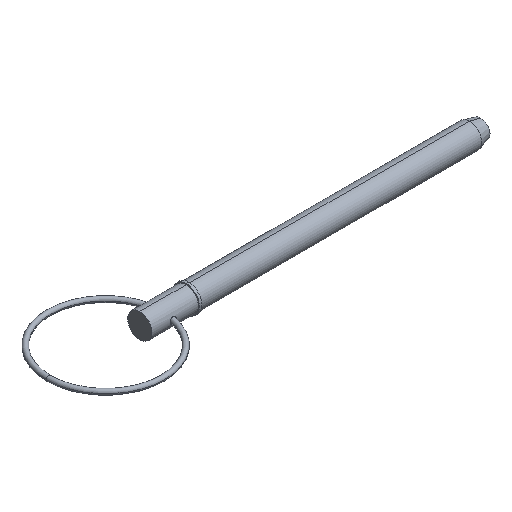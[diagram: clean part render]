
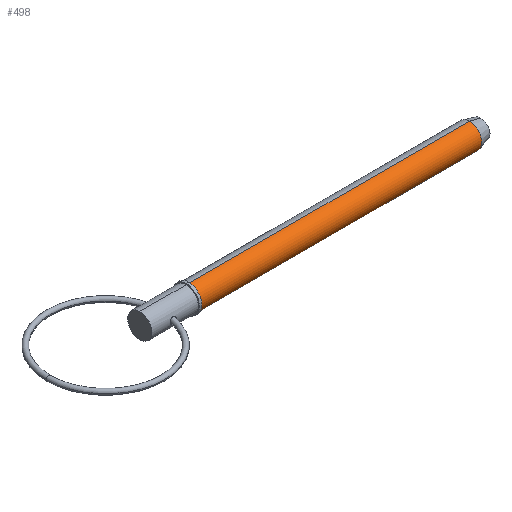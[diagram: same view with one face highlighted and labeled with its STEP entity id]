
A CAD part, isometric view. The second image highlights one B-rep face of the part: STEP entity #498.
In plain terms, the highlighted cylindrical face has radius 4.765 mm (diameter 9.53 mm), a partial arc.
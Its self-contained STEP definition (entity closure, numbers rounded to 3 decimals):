
#12 = DIRECTION ( 'NONE',  ( 0., 0., -1. ) ) ;
#28 = DIRECTION ( 'NONE',  ( 1., 0., 0. ) ) ;
#51 = AXIS2_PLACEMENT_3D ( 'NONE', #253, #720, #12 ) ;
#52 = DIRECTION ( 'NONE',  ( 0., 0., -1. ) ) ;
#65 = DIRECTION ( 'NONE',  ( 1., 0., 0. ) ) ;
#75 = CARTESIAN_POINT ( 'NONE',  ( 128.904, 0., 0. ) ) ;
#80 = LINE ( 'NONE', #387, #401 ) ;
#209 = VERTEX_POINT ( 'NONE', #571 ) ;
#218 = AXIS2_PLACEMENT_3D ( 'NONE', #75, #691, #52 ) ;
#237 = CARTESIAN_POINT ( 'NONE',  ( 128.904, 0., 4.765 ) ) ;
#253 = CARTESIAN_POINT ( 'NONE',  ( 0., 0., 0. ) ) ;
#267 = CIRCLE ( 'NONE', #839, 4.765 ) ;
#304 = CIRCLE ( 'NONE', #218, 4.765 ) ;
#308 = ORIENTED_EDGE ( 'NONE', *, *, #914, .T. ) ;
#323 = LINE ( 'NONE', #631, #637 ) ;
#368 = DIRECTION ( 'NONE',  ( 0., 0., -1. ) ) ;
#379 = CARTESIAN_POINT ( 'NONE',  ( 19.05, 0., 0. ) ) ;
#387 = CARTESIAN_POINT ( 'NONE',  ( 0., 0., -4.765 ) ) ;
#401 = VECTOR ( 'NONE', #633, 1000. ) ;
#434 = ORIENTED_EDGE ( 'NONE', *, *, #603, .T. ) ;
#473 = CYLINDRICAL_SURFACE ( 'NONE', #51, 4.765 ) ;
#476 = VERTEX_POINT ( 'NONE', #237 ) ;
#488 = ORIENTED_EDGE ( 'NONE', *, *, #688, .F. ) ;
#498 = ADVANCED_FACE ( 'NONE', ( #936 ), #473, .T. ) ;
#509 = EDGE_CURVE ( 'NONE', #800, #476, #323, .T. ) ;
#526 = CARTESIAN_POINT ( 'NONE',  ( 19.05, 0., -4.765 ) ) ;
#549 = CARTESIAN_POINT ( 'NONE',  ( 19.05, 0., 4.765 ) ) ;
#571 = CARTESIAN_POINT ( 'NONE',  ( 128.904, 0., -4.765 ) ) ;
#603 = EDGE_CURVE ( 'NONE', #800, #677, #267, .T. ) ;
#631 = CARTESIAN_POINT ( 'NONE',  ( 0., 0., 4.765 ) ) ;
#633 = DIRECTION ( 'NONE',  ( 1., 0., 0. ) ) ;
#637 = VECTOR ( 'NONE', #28, 1000. ) ;
#677 = VERTEX_POINT ( 'NONE', #526 ) ;
#688 = EDGE_CURVE ( 'NONE', #476, #209, #304, .T. ) ;
#691 = DIRECTION ( 'NONE',  ( 1., 0., 0. ) ) ;
#720 = DIRECTION ( 'NONE',  ( 1., 0., 0. ) ) ;
#763 = EDGE_LOOP ( 'NONE', ( #875, #434, #308, #488 ) ) ;
#800 = VERTEX_POINT ( 'NONE', #549 ) ;
#839 = AXIS2_PLACEMENT_3D ( 'NONE', #379, #65, #368 ) ;
#875 = ORIENTED_EDGE ( 'NONE', *, *, #509, .F. ) ;
#914 = EDGE_CURVE ( 'NONE', #677, #209, #80, .T. ) ;
#936 = FACE_OUTER_BOUND ( 'NONE', #763, .T. ) ;
